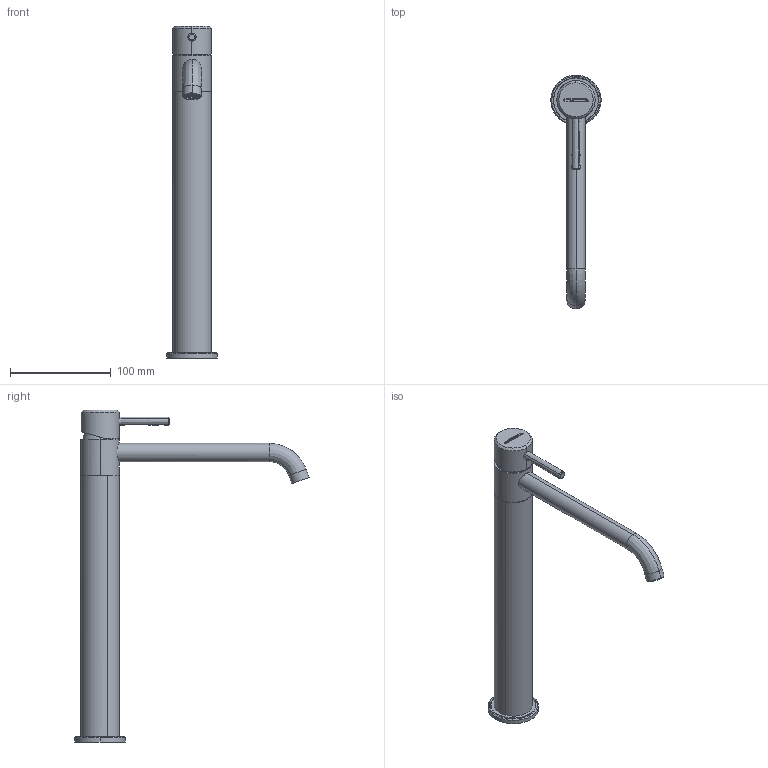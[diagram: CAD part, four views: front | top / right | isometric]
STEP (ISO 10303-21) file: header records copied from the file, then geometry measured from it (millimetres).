
FILE_DESCRIPTION(/* description */ (''),/* implementation_level */ '2;1');
FILE_NAME(/* name */ 'ST3055HACC',/* time_stamp */ '2024-02-26T10:15:30+01:00',/* author */ (''),/* organization */ (''),/* preprocessor_version */ 'ST-DEVELOPER v16.5',/* originating_system */ 'Rhino 7.36',/* authorisation */ '');
FILE_SCHEMA (('CONFIG_CONTROL_DESIGN'));
Length unit declared in the file: millimetre
Products named in the file (1): Document
Bounding box: 50 x 232.94 x 330.3 mm (x, y, z)
Volume: 60584.8 mm3; surface area: 63701.5 mm2
Topology: 2 solids, 65 shells, 416 faces, 1390 edges, 1032 vertices
Faces by surface type: plane 223, cylinder 140, bspline 53
Entity records: 17021 total; most frequent: CARTESIAN_POINT 8943, ORIENTED_EDGE 2029, EDGE_CURVE 1388, VERTEX_POINT 1031, B_SPLINE_CURVE_WITH_KNOTS 1026, EDGE_LOOP 437, ADVANCED_FACE 415, FACE_OUTER_BOUND 415
